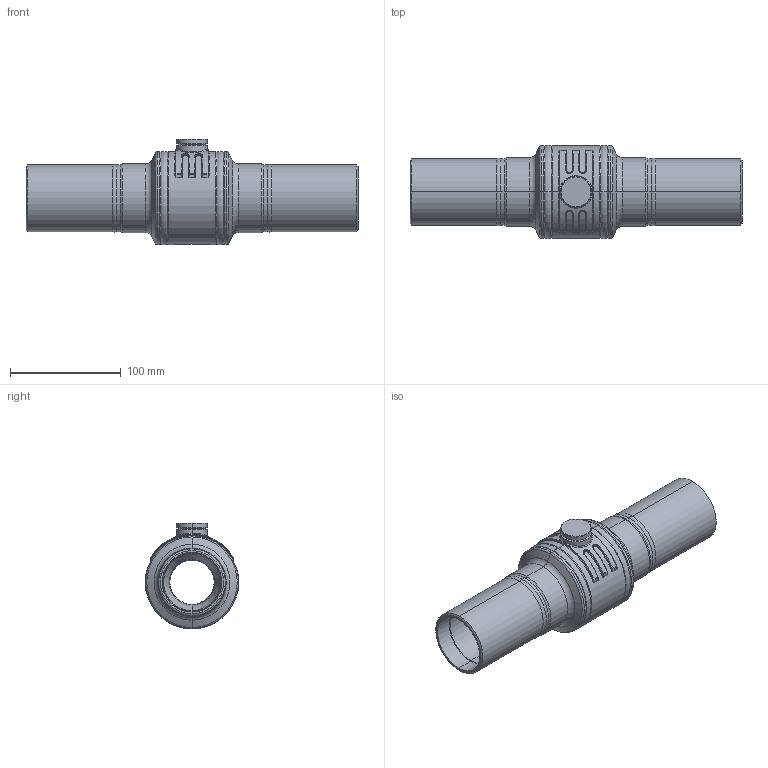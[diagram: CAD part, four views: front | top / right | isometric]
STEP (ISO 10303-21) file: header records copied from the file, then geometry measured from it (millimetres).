
FILE_DESCRIPTION((''),'2;1');
FILE_NAME('KHMO-BH-R-ISKT-050R040P040','2025-02-11T17:02:50',('jeitlers'),('KLINGER'),'CREO PARAMETRIC BY PTC INC, 2023014','CREO PARAMETRIC BY PTC INC, 2023014','');
FILE_SCHEMA(('CONFIG_CONTROL_DESIGN'));
Length unit declared in the file: millimetre
Products named in the file (1): KHMO-BH-R-ISKT-050R040P040
Bounding box: 300 x 84.45 x 95.72 mm (x, y, z)
Volume: 412614.5 mm3; surface area: 161670.7 mm2
Topology: 2 solids, 2 shells, 478 faces, 1045 edges, 595 vertices
Faces by surface type: cylinder 147, torus 128, plane 83, cone 82, bspline 36, sphere 2
Entity records: 20681 total; most frequent: CARTESIAN_POINT 10131, DIRECTION 2422, ORIENTED_EDGE 2086, AXIS2_PLACEMENT_3D 1055, EDGE_CURVE 1043, CIRCLE 613, VERTEX_POINT 595, EDGE_LOOP 512
